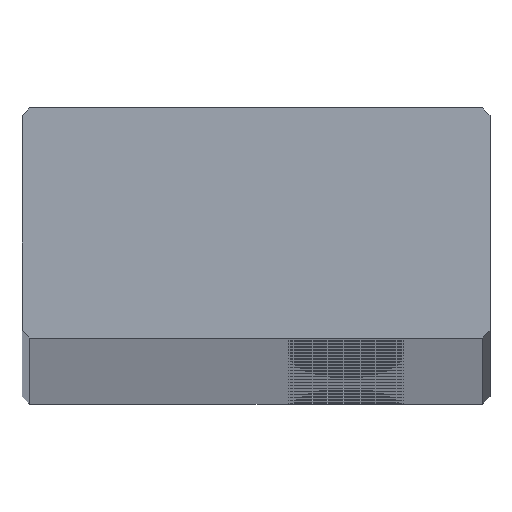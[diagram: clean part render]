
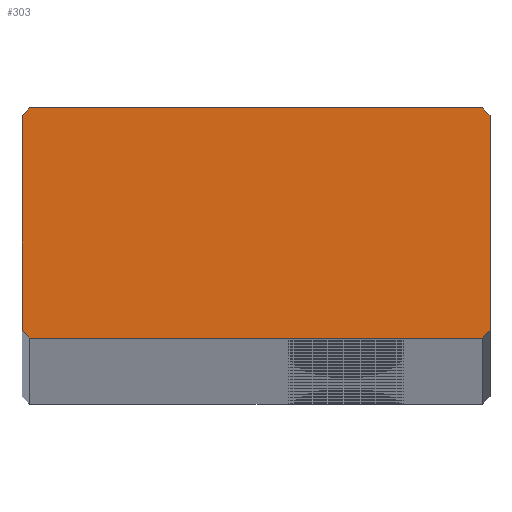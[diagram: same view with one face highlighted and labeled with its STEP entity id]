
A CAD part, top view. The second image highlights one B-rep face of the part: STEP entity #303.
In plain terms, the highlighted planar face has unit normal (0, 0, 1).
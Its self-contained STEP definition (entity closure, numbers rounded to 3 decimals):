
#303=ADVANCED_FACE('',(#894),#895,.T.);
#894=FACE_OUTER_BOUND('',#1486,.T.);
#895=PLANE('',#1487);
#1486=EDGE_LOOP('',(#3262,#3263,#3264,#3265,#3266,#3267,#3268,#3269));
#1487=AXIS2_PLACEMENT_3D('',#3270,#3271,#3272);
#3262=ORIENTED_EDGE('',*,*,#3812,.F.);
#3263=ORIENTED_EDGE('',*,*,#3834,.F.);
#3264=ORIENTED_EDGE('',*,*,#3831,.F.);
#3265=ORIENTED_EDGE('',*,*,#3828,.F.);
#3266=ORIENTED_EDGE('',*,*,#3825,.F.);
#3267=ORIENTED_EDGE('',*,*,#3822,.F.);
#3268=ORIENTED_EDGE('',*,*,#3819,.F.);
#3269=ORIENTED_EDGE('',*,*,#3816,.F.);
#3270=CARTESIAN_POINT('',(0.,6.0,1976.0));
#3271=DIRECTION('',(0.0,0.0,1.0));
#3272=DIRECTION('',(1.0,0.0,0.0));
#3812=EDGE_CURVE('',#4716,#4717,#4718,.T.);
#3816=EDGE_CURVE('',#4717,#4724,#4725,.T.);
#3819=EDGE_CURVE('',#4724,#4729,#4730,.T.);
#3822=EDGE_CURVE('',#4729,#4734,#4735,.T.);
#3825=EDGE_CURVE('',#4734,#4739,#4740,.T.);
#3828=EDGE_CURVE('',#4739,#4744,#4745,.T.);
#3831=EDGE_CURVE('',#4744,#4749,#4750,.T.);
#3834=EDGE_CURVE('',#4749,#4716,#4754,.T.);
#4716=VERTEX_POINT('',#5812);
#4717=VERTEX_POINT('',#5813);
#4718=LINE('',#5814,#5815);
#4724=VERTEX_POINT('',#5824);
#4725=LINE('',#5825,#5826);
#4729=VERTEX_POINT('',#5832);
#4730=LINE('',#5833,#5834);
#4734=VERTEX_POINT('',#5840);
#4735=LINE('',#5841,#5842);
#4739=VERTEX_POINT('',#5848);
#4740=LINE('',#5849,#5850);
#4744=VERTEX_POINT('',#5856);
#4745=LINE('',#5857,#5858);
#4749=VERTEX_POINT('',#5864);
#4750=LINE('',#5865,#5866);
#4754=LINE('',#5872,#5873);
#5812=CARTESIAN_POINT('',(-11.8,0.,1976.0));
#5813=CARTESIAN_POINT('',(-12.2,0.4,1976.0));
#5814=CARTESIAN_POINT('',(-11.8,0.,1976.0));
#5815=VECTOR('',#7108,1.0);
#5824=CARTESIAN_POINT('',(-12.2,11.6,1976.0));
#5825=CARTESIAN_POINT('',(-12.2,0.4,1976.0));
#5826=VECTOR('',#7112,1.0);
#5832=CARTESIAN_POINT('',(-11.8,12.0,1976.0));
#5833=CARTESIAN_POINT('',(-12.2,11.6,1976.0));
#5834=VECTOR('',#7115,1.0);
#5840=CARTESIAN_POINT('',(11.8,12.0,1976.0));
#5841=CARTESIAN_POINT('',(-11.8,12.0,1976.0));
#5842=VECTOR('',#7118,1.0);
#5848=CARTESIAN_POINT('',(12.2,11.6,1976.0));
#5849=CARTESIAN_POINT('',(11.8,12.0,1976.0));
#5850=VECTOR('',#7121,1.0);
#5856=CARTESIAN_POINT('',(12.2,0.4,1976.0));
#5857=CARTESIAN_POINT('',(12.2,0.4,1976.0));
#5858=VECTOR('',#7124,1.0);
#5864=CARTESIAN_POINT('',(11.8,0.,1976.0));
#5865=CARTESIAN_POINT('',(11.8,0.,1976.0));
#5866=VECTOR('',#7127,1.0);
#5872=CARTESIAN_POINT('',(-11.8,0.,1976.0));
#5873=VECTOR('',#7130,1.0);
#7108=DIRECTION('',(-0.707,0.707,0.0));
#7112=DIRECTION('',(0.0,1.0,0.0));
#7115=DIRECTION('',(0.707,0.707,0.0));
#7118=DIRECTION('',(1.0,0.0,0.0));
#7121=DIRECTION('',(0.707,-0.707,0.0));
#7124=DIRECTION('',(-0.0,-1.0,-0.0));
#7127=DIRECTION('',(-0.707,-0.707,-0.0));
#7130=DIRECTION('',(-1.0,-0.0,-0.0));
